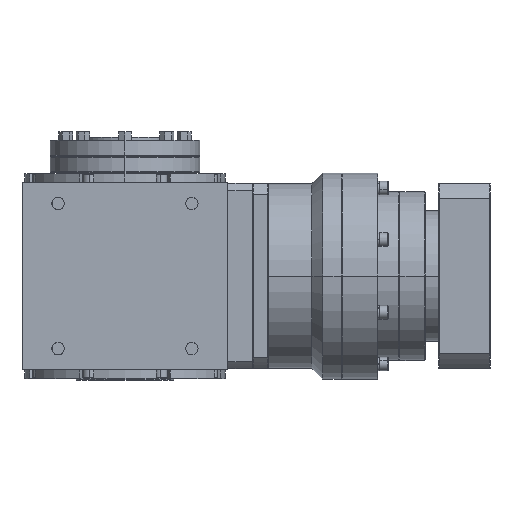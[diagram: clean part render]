
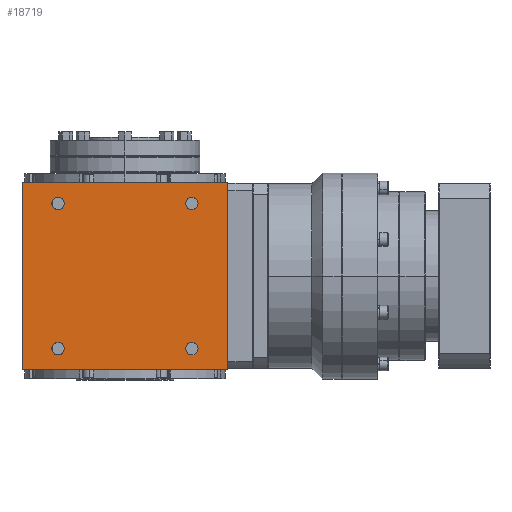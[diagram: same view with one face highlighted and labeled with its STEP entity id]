
A CAD part, left-side view. The second image highlights one B-rep face of the part: STEP entity #18719.
In plain terms, the highlighted planar face has unit normal (-1, 0, 0).
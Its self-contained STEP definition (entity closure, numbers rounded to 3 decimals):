
#582 = DIRECTION ( 'NONE',  ( 0., -1., 0. ) ) ;
#712 = AXIS2_PLACEMENT_3D ( 'NONE', #10805, #27406, #14929 ) ;
#963 = AXIS2_PLACEMENT_3D ( 'NONE', #29346, #25438, #38588 ) ;
#1097 = LINE ( 'NONE', #15276, #16871 ) ;
#1170 = AXIS2_PLACEMENT_3D ( 'NONE', #3057, #22956, #23377 ) ;
#1322 = AXIS2_PLACEMENT_3D ( 'NONE', #8822, #28911, #18661 ) ;
#2404 = LINE ( 'NONE', #16374, #17162 ) ;
#2817 = CARTESIAN_POINT ( 'NONE',  ( -100., 59., -70.5 ) ) ;
#3057 = CARTESIAN_POINT ( 'NONE',  ( -100., 65., 70.5 ) ) ;
#3198 = CARTESIAN_POINT ( 'NONE',  ( -100., -71., -70.5 ) ) ;
#3218 = VECTOR ( 'NONE', #5662, 1000. ) ;
#3265 = LINE ( 'NONE', #13102, #30645 ) ;
#3359 = EDGE_CURVE ( 'NONE', #15596, #14454, #42222, .T. ) ;
#3649 = VERTEX_POINT ( 'NONE', #24229 ) ;
#4033 = DIRECTION ( 'NONE',  ( -1., 0., 0. ) ) ;
#4300 = CARTESIAN_POINT ( 'NONE',  ( -100., 59., 70.5 ) ) ;
#5080 = CIRCLE ( 'NONE', #29519, 6. ) ;
#5231 = CARTESIAN_POINT ( 'NONE',  ( -100., 100., -91. ) ) ;
#5422 = CARTESIAN_POINT ( 'NONE',  ( -100., 65., 70.5 ) ) ;
#5662 = DIRECTION ( 'NONE',  ( 0., 0., 1. ) ) ;
#5854 = DIRECTION ( 'NONE',  ( 0., -1., 0. ) ) ;
#6017 = ORIENTED_EDGE ( 'NONE', *, *, #29482, .T. ) ;
#7139 = DIRECTION ( 'NONE',  ( 1., 0., 0. ) ) ;
#8276 = CARTESIAN_POINT ( 'NONE',  ( -100., 71., -70.5 ) ) ;
#8681 = EDGE_LOOP ( 'NONE', ( #34806, #28460, #18509, #30608 ) ) ;
#8822 = CARTESIAN_POINT ( 'NONE',  ( -100., -65., 70.5 ) ) ;
#9346 = ORIENTED_EDGE ( 'NONE', *, *, #21278, .T. ) ;
#9755 = AXIS2_PLACEMENT_3D ( 'NONE', #23966, #7139, #582 ) ;
#9828 = DIRECTION ( 'NONE',  ( 0., -1., 0. ) ) ;
#10227 = CIRCLE ( 'NONE', #1170, 6. ) ;
#10320 = VERTEX_POINT ( 'NONE', #26671 ) ;
#10583 = PLANE ( 'NONE',  #21328 ) ;
#10730 = CARTESIAN_POINT ( 'NONE',  ( -100., -100., -91. ) ) ;
#10805 = CARTESIAN_POINT ( 'NONE',  ( -100., 65., -70.5 ) ) ;
#11015 = FACE_BOUND ( 'NONE', #30958, .T. ) ;
#11773 = CIRCLE ( 'NONE', #1322, 6. ) ;
#11811 = VERTEX_POINT ( 'NONE', #23343 ) ;
#12209 = DIRECTION ( 'NONE',  ( 0., -1., 0. ) ) ;
#13102 = CARTESIAN_POINT ( 'NONE',  ( -100., 100., -91. ) ) ;
#13678 = EDGE_CURVE ( 'NONE', #14454, #30311, #2404, .T. ) ;
#14027 = VERTEX_POINT ( 'NONE', #8276 ) ;
#14454 = VERTEX_POINT ( 'NONE', #41714 ) ;
#14630 = ORIENTED_EDGE ( 'NONE', *, *, #25857, .T. ) ;
#14929 = DIRECTION ( 'NONE',  ( 0., -1., 0. ) ) ;
#15202 = EDGE_LOOP ( 'NONE', ( #6017, #29969 ) ) ;
#15276 = CARTESIAN_POINT ( 'NONE',  ( -100., -100., -91. ) ) ;
#15596 = VERTEX_POINT ( 'NONE', #25262 ) ;
#16374 = CARTESIAN_POINT ( 'NONE',  ( -100., 0., 91. ) ) ;
#16871 = VECTOR ( 'NONE', #41995, 1000. ) ;
#16900 = VERTEX_POINT ( 'NONE', #3198 ) ;
#17162 = VECTOR ( 'NONE', #9828, 1000. ) ;
#17209 = CARTESIAN_POINT ( 'NONE',  ( -100., 65., -70.5 ) ) ;
#17553 = DIRECTION ( 'NONE',  ( 0., -1., 0. ) ) ;
#17769 = FACE_BOUND ( 'NONE', #15202, .T. ) ;
#18509 = ORIENTED_EDGE ( 'NONE', *, *, #3359, .F. ) ;
#18563 = EDGE_LOOP ( 'NONE', ( #14630, #9346 ) ) ;
#18661 = DIRECTION ( 'NONE',  ( 0., -1., 0. ) ) ;
#18719 = ADVANCED_FACE ( 'NONE', ( #11015, #17769, #27194, #24550, #24341 ), #10583, .T. ) ;
#19232 = DIRECTION ( 'NONE',  ( 0., -1., 0. ) ) ;
#19325 = EDGE_CURVE ( 'NONE', #37263, #3649, #10227, .T. ) ;
#19534 = VERTEX_POINT ( 'NONE', #24444 ) ;
#20412 = CIRCLE ( 'NONE', #41401, 6. ) ;
#21278 = EDGE_CURVE ( 'NONE', #11811, #10320, #11773, .T. ) ;
#21328 = AXIS2_PLACEMENT_3D ( 'NONE', #27824, #4033, #17553 ) ;
#21638 = CIRCLE ( 'NONE', #9755, 6. ) ;
#21922 = CIRCLE ( 'NONE', #31668, 6. ) ;
#22469 = DIRECTION ( 'NONE',  ( 1., 0., 0. ) ) ;
#22501 = ORIENTED_EDGE ( 'NONE', *, *, #19325, .T. ) ;
#22598 = CARTESIAN_POINT ( 'NONE',  ( -100., -100., 91. ) ) ;
#22956 = DIRECTION ( 'NONE',  ( 1., 0., 0. ) ) ;
#23114 = VERTEX_POINT ( 'NONE', #10730 ) ;
#23343 = CARTESIAN_POINT ( 'NONE',  ( -100., -59., 70.5 ) ) ;
#23352 = ORIENTED_EDGE ( 'NONE', *, *, #26446, .T. ) ;
#23377 = DIRECTION ( 'NONE',  ( 0., -1., 0. ) ) ;
#23966 = CARTESIAN_POINT ( 'NONE',  ( -100., -65., 70.5 ) ) ;
#24029 = EDGE_CURVE ( 'NONE', #23114, #30311, #1097, .T. ) ;
#24144 = VERTEX_POINT ( 'NONE', #2817 ) ;
#24229 = CARTESIAN_POINT ( 'NONE',  ( -100., 71., 70.5 ) ) ;
#24341 = FACE_OUTER_BOUND ( 'NONE', #8681, .T. ) ;
#24444 = CARTESIAN_POINT ( 'NONE',  ( -100., -59., -70.5 ) ) ;
#24550 = FACE_BOUND ( 'NONE', #32445, .T. ) ;
#24714 = CIRCLE ( 'NONE', #963, 6. ) ;
#25139 = CIRCLE ( 'NONE', #712, 6. ) ;
#25262 = CARTESIAN_POINT ( 'NONE',  ( -100., 100., -91. ) ) ;
#25438 = DIRECTION ( 'NONE',  ( 1., 0., 0. ) ) ;
#25857 = EDGE_CURVE ( 'NONE', #10320, #11811, #21638, .T. ) ;
#26446 = EDGE_CURVE ( 'NONE', #14027, #24144, #25139, .T. ) ;
#26671 = CARTESIAN_POINT ( 'NONE',  ( -100., -71., 70.5 ) ) ;
#26828 = DIRECTION ( 'NONE',  ( 1., 0., 0. ) ) ;
#27194 = FACE_BOUND ( 'NONE', #18563, .T. ) ;
#27406 = DIRECTION ( 'NONE',  ( 1., 0., 0. ) ) ;
#27824 = CARTESIAN_POINT ( 'NONE',  ( -100., 100., -91. ) ) ;
#28460 = ORIENTED_EDGE ( 'NONE', *, *, #13678, .F. ) ;
#28911 = DIRECTION ( 'NONE',  ( 1., 0., 0. ) ) ;
#29346 = CARTESIAN_POINT ( 'NONE',  ( -100., -65., -70.5 ) ) ;
#29461 = CARTESIAN_POINT ( 'NONE',  ( -100., -65., -70.5 ) ) ;
#29482 = EDGE_CURVE ( 'NONE', #16900, #19534, #21922, .T. ) ;
#29519 = AXIS2_PLACEMENT_3D ( 'NONE', #17209, #26828, #30541 ) ;
#29969 = ORIENTED_EDGE ( 'NONE', *, *, #40266, .T. ) ;
#30311 = VERTEX_POINT ( 'NONE', #22598 ) ;
#30541 = DIRECTION ( 'NONE',  ( 0., -1., 0. ) ) ;
#30608 = ORIENTED_EDGE ( 'NONE', *, *, #33285, .T. ) ;
#30645 = VECTOR ( 'NONE', #19232, 1000. ) ;
#30958 = EDGE_LOOP ( 'NONE', ( #32560, #23352 ) ) ;
#31668 = AXIS2_PLACEMENT_3D ( 'NONE', #29461, #32319, #12209 ) ;
#32166 = ORIENTED_EDGE ( 'NONE', *, *, #39380, .T. ) ;
#32319 = DIRECTION ( 'NONE',  ( 1., 0., 0. ) ) ;
#32445 = EDGE_LOOP ( 'NONE', ( #22501, #32166 ) ) ;
#32560 = ORIENTED_EDGE ( 'NONE', *, *, #39570, .T. ) ;
#33285 = EDGE_CURVE ( 'NONE', #15596, #23114, #3265, .T. ) ;
#34806 = ORIENTED_EDGE ( 'NONE', *, *, #24029, .T. ) ;
#37263 = VERTEX_POINT ( 'NONE', #4300 ) ;
#38588 = DIRECTION ( 'NONE',  ( 0., -1., 0. ) ) ;
#39380 = EDGE_CURVE ( 'NONE', #3649, #37263, #20412, .T. ) ;
#39570 = EDGE_CURVE ( 'NONE', #24144, #14027, #5080, .T. ) ;
#40266 = EDGE_CURVE ( 'NONE', #19534, #16900, #24714, .T. ) ;
#41401 = AXIS2_PLACEMENT_3D ( 'NONE', #5422, #22469, #5854 ) ;
#41714 = CARTESIAN_POINT ( 'NONE',  ( -100., 100., 91. ) ) ;
#41995 = DIRECTION ( 'NONE',  ( 0., 0., 1. ) ) ;
#42222 = LINE ( 'NONE', #5231, #3218 ) ;
